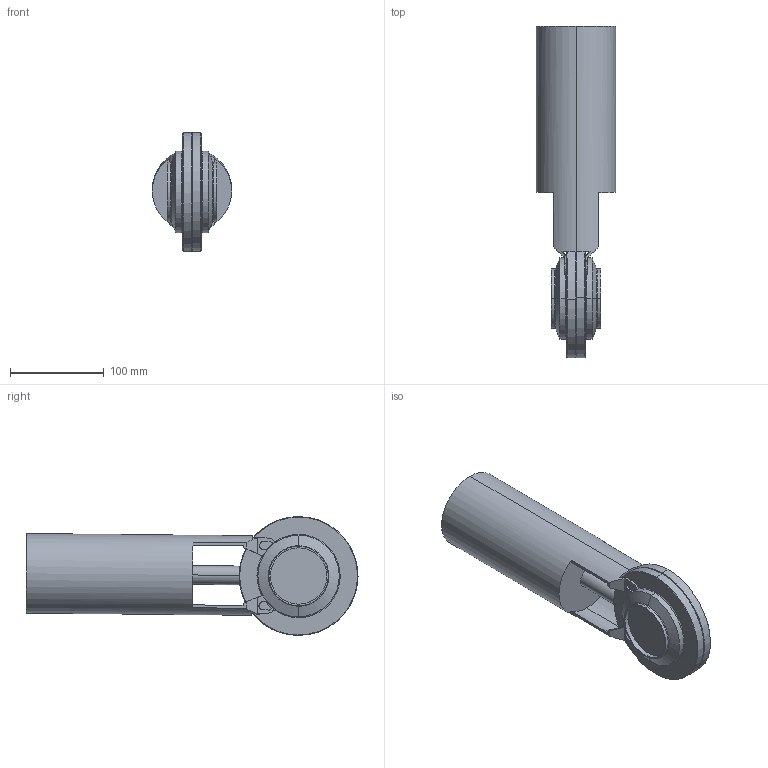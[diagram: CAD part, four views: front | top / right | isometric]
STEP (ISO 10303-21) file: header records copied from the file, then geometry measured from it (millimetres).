
FILE_DESCRIPTION(('OneSpaceDesigner STEP Export'),'2;1');
FILE_NAME('25-80-004-..vereint.stp','2007-04-20T10:23:22',(''),(''),'OneSpace Designer STEP processor for AP214 (Solid Model)','OneSpace Modeling 15.00 06-Feb-2007 (C) CoCreate Software GmbH','');
FILE_SCHEMA(('AUTOMOTIVE_DESIGN { 1 0 10303 214 1 1 1 1 }'));
Length unit declared in the file: millimetre
Products named in the file (2): SV1-2.5zoll-FZ-12S; SV1-2.5zoll-FZ-12S-vereint
Assembly tree (1 placements, depth 2):
  SV1-2.5zoll-FZ-12S-vereint
    SV1-2.5zoll-FZ-12S
Bounding box: 85 x 354.91 x 126.99 mm (x, y, z)
Volume: 1422117 mm3; surface area: 117868 mm2
Topology: 1 solids, 1 shells, 134 faces, 399 edges, 256 vertices
Faces by surface type: plane 60, cylinder 42, torus 16, cone 16
Entity records: 5741 total; most frequent: CARTESIAN_POINT 2499, ORIENTED_EDGE 798, DIRECTION 538, EDGE_CURVE 399, VERTEX_POINT 256, AXIS2_PLACEMENT_3D 180, VECTOR 178, LINE 178
